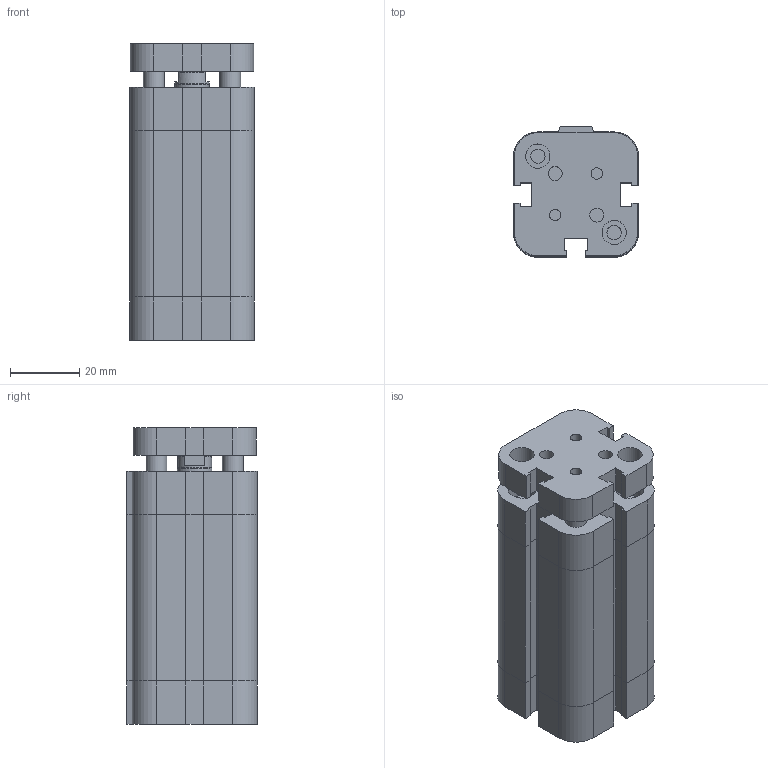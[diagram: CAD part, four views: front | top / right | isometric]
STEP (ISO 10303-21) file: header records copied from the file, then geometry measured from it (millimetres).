
FILE_DESCRIPTION((''),'2;1');
FILE_NAME('I:\Area Tecnica\Disegni\VARIE-3D\Componenti\EUROPE\15##_###_####_07_#\1581_20_0035_07_1.iam.stp','2009-04-20T15:20:11',(''),(''),'Autodesk Inventor 2009','Autodesk Inventor 2009','');
FILE_SCHEMA(('AUTOMOTIVE_DESIGN { 1 0 10303 214 1 1 1 1 }'));
Length unit declared in the file: millimetre
Products named in the file (3): 1581_20_0035_07_1; 1581_20_0035_07_1_C; 1561_20_0035_07_1_SA
Assembly tree (2 placements, depth 2):
  1581_20_0035_07_1
    1581_20_0035_07_1_C
    1561_20_0035_07_1_SA
Bounding box: 36 x 37.5 x 85.5 mm (x, y, z)
Volume: 93209.2 mm3; surface area: 27591.4 mm2
Topology: 2 solids, 2 shells, 206 faces, 483 edges, 301 vertices
Faces by surface type: plane 135, bspline 44, cylinder 21, cone 6
Full cylindrical faces by diameter (mm): 6 x2, 9.8 x2, 10 x1
Entity records: 6055 total; most frequent: CARTESIAN_POINT 1405, ORIENTED_EDGE 876, DIRECTION 854, EDGE_CURVE 438, VECTOR 340, LINE 340, VERTEX_POINT 286, EDGE_LOOP 268
